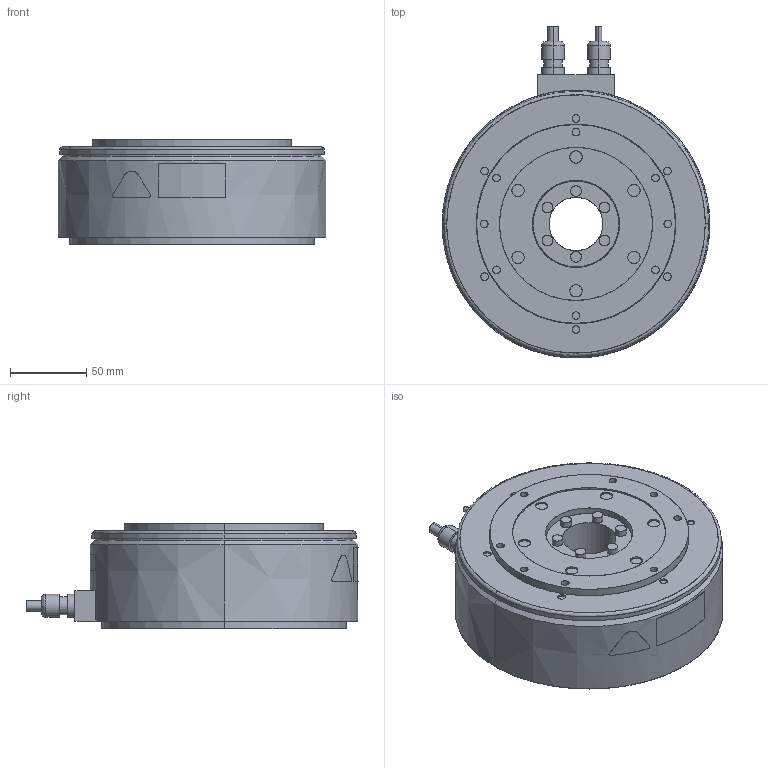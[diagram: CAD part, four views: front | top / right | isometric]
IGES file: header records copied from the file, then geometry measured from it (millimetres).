
Start section: SolidWorks IGES file using analytic representation for surfaces
Bounding box: 175 x 217.1 x 69 mm (x, y, z)
Surface area: 99981.7 mm2 (no closed solid volume)
Topology: 0 solids, 0 shells, 192 faces, 4651 edges, 4651 vertices
Faces by surface type: revolution 114, bspline 78
